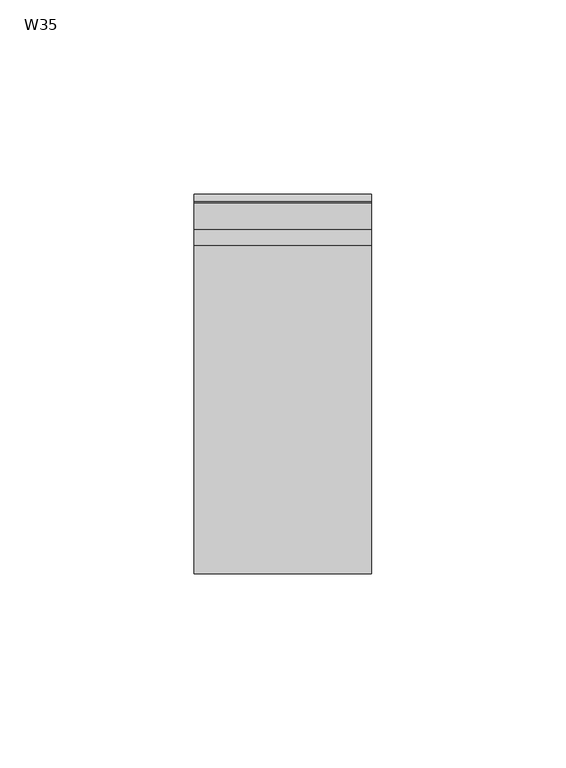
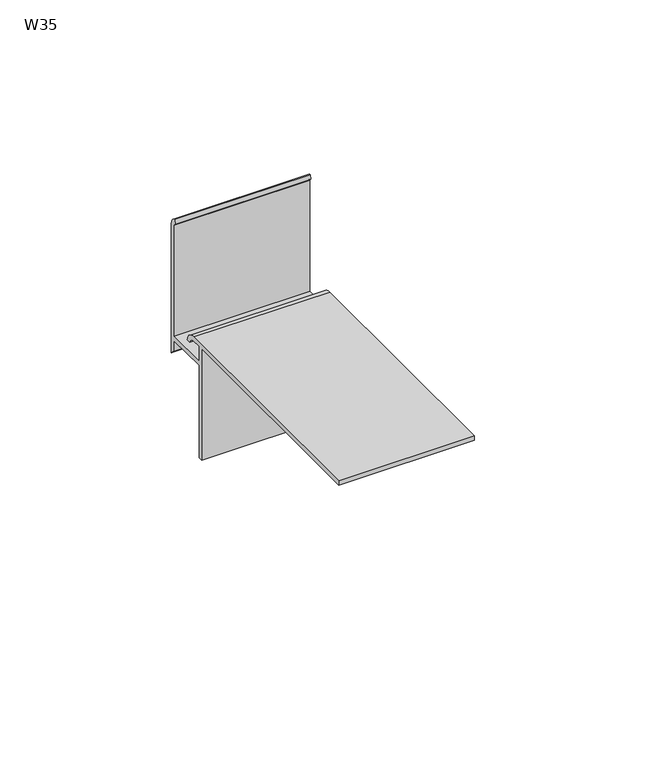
"""IFC4 building model written with IfcOpenShell, lengths in millimetres: proxy geometry, W35 Profil okapowy prosty z rynną : W35."""

from ifc_helpers import new_model, si_unit, point, frame, frame_2d, origin, place, context, project, spatial, polyline, circle_curve, trimmed, segment, composite_curve, outline, extrude, source, transform, mapped, element, save


def w35_098470a9(model_context):
    return source(origin(), model_context, "Body", "SweptSolid", [
        extrude(outline(composite_curve([segment(polyline([(6.45625, -36.4912009), (-73.5437501, -36.4912009), (-73.5437501, -34.9912009), (10.9562499, -34.9912009)]), True, "CONTINUOUS"), segment(trimmed(circle_curve(frame_2d((10.9605833, -38.9787852)), 3.9875866), [point((10.9562499, -34.9912009))], [point((14.8884421, -38.291201))], False, "CARTESIAN"), True, "CONTINUOUS"), segment(polyline([(14.8884421, -38.291201), (13.3562498, -38.291201)]), True, "CONTINUOUS"), segment(trimmed(circle_curve(frame_2d((10.9562498, -38.9912009)), 2.5), [point((13.3562498, -38.291201))], [point((10.9562498, -36.4912009))], True, "CARTESIAN"), True, "CONTINUOUS"), segment(polyline([(10.9562498, -36.4912009), (7.9562498, -36.4912009), (7.9562498, -41.7912008), (22.5562497, -41.7912008), (22.5562497, -2.2682013)]), True, "CONTINUOUS"), segment(trimmed(circle_curve(frame_2d((21.756241, -2.2682013)), 0.8000089), [point((22.5562497, -2.2682013))], [point((21.9232762, -1.4858246))], True, "CARTESIAN"), True, "CONTINUOUS"), segment(polyline([(21.9232762, -1.4858246), (22.2404603, -0.0001657)]), True, "CONTINUOUS"), segment(trimmed(circle_curve(frame_2d((21.7562505, -2.248618)), 2.2999994), [point((22.2404603, -0.0001657))], [point((24.0562499, -2.248618))], False, "CARTESIAN"), True, "CONTINUOUS"), segment(polyline([(24.0562499, -2.248618), (24.0562499, -48.6447543), (22.5562498, -47.1447542), (22.5562498, -43.2912011), (7.9562498, -43.2912011), (7.9562498, -76.1912009), (6.4562498, -76.1912009), (6.45625, -36.4912009)]), True, "CONTINUOUS")], self_intersect=False)), frame((0.0, 0.0, 0.0), z_axis=(1.0, 0.0, 0.0), x_axis=(0.0, 1.0, 0.0)), (0.0, 0.0, 1.0), 45.7138016),
    ])


if __name__ == "__main__":
    model = new_model("IFC4")
    model_context = context("Model", 3, world=origin())
    ifc_project = project(units=[si_unit("LENGTHUNIT", "METRE", prefix="MILLI")], contexts=[model_context])
    site = spatial("IfcSite", under=ifc_project)
    building = spatial("IfcBuilding", under=site)
    placement = place(None, origin())
    w35_shape = w35_098470a9(model_context)
    element("IfcBuildingElementProxy", 1, Name="W35 Profil okapowy prosty z rynną : W35", ObjectType="W35 Profil okapowy prosty z rynną : W35", at=placement, inside=building, context=model_context, shape_type="MappedRepresentation", body=[
        mapped(w35_shape, transform((0.0, 0.0, 0.0), x_axis=(1.0, 0.0, 0.0), y_axis=(0.0, 1.0, 0.0), z_axis=(0.0, 0.0, 1.0))),
    ])
    save(model, "model.ifc")
